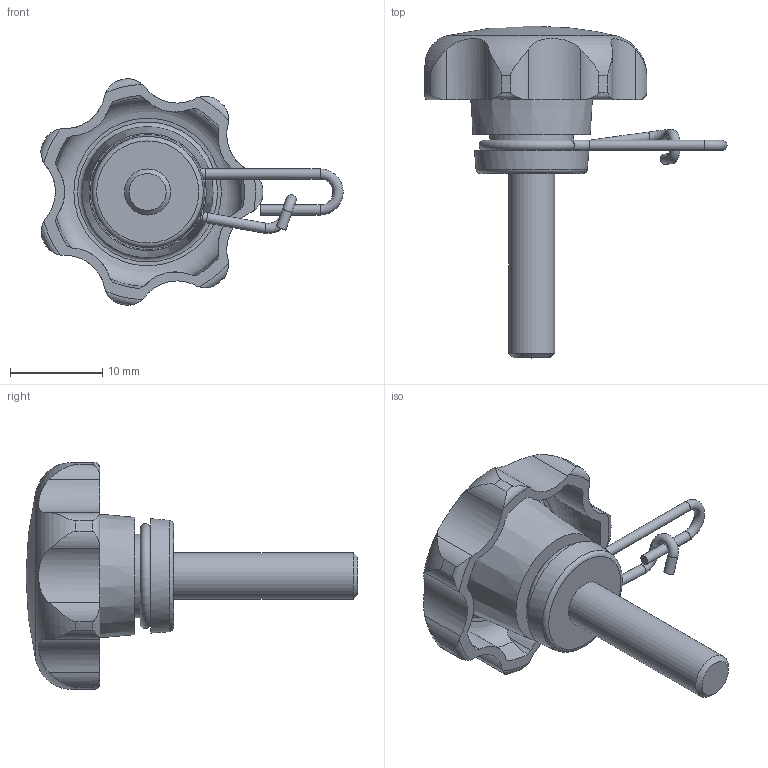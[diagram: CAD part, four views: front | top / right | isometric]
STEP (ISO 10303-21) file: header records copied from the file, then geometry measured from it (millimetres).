
FILE_DESCRIPTION( ( 'STEP AP203' ), '1' );
FILE_NAME( 'C:/Temp/Ganter_Step_05_03_2020/data/2_2/gn_6336_13/gn_6336_13_2/Star knob GN 6336.13-25-M5-20-A.stp', '2020-03-05T12:11:02', ( 'License CC BY-ND 4.0' ), ( 'CADENAS' ), ' ', 'PARTsolutions', ' ' );
FILE_SCHEMA( ( 'CONFIG_CONTROL_DESIGN' ) );
Length unit declared in the file: millimetre
Products named in the file (1): _Star knob GN 6336.13-25-M5-20-A
Bounding box: 32.76 x 36 x 24.58 mm (x, y, z)
Volume: 3458.9 mm3; surface area: 2675.1 mm2
Topology: 1 solids, 1 shells, 99 faces, 271 edges, 176 vertices
Faces by surface type: cylinder 59, torus 18, cone 11, plane 10, sphere 1
Full cylindrical faces by diameter (mm): 1.1 x6, 5 x1, 9.1 x1
Entity records: 3678 total; most frequent: CARTESIAN_POINT 1311, DIRECTION 476, ORIENTED_EDGE 476, EDGE_CURVE 238, AXIS2_PLACEMENT_3D 213, VERTEX_POINT 170, EDGE_LOOP 127, FACE_OUTER_BOUND 117
